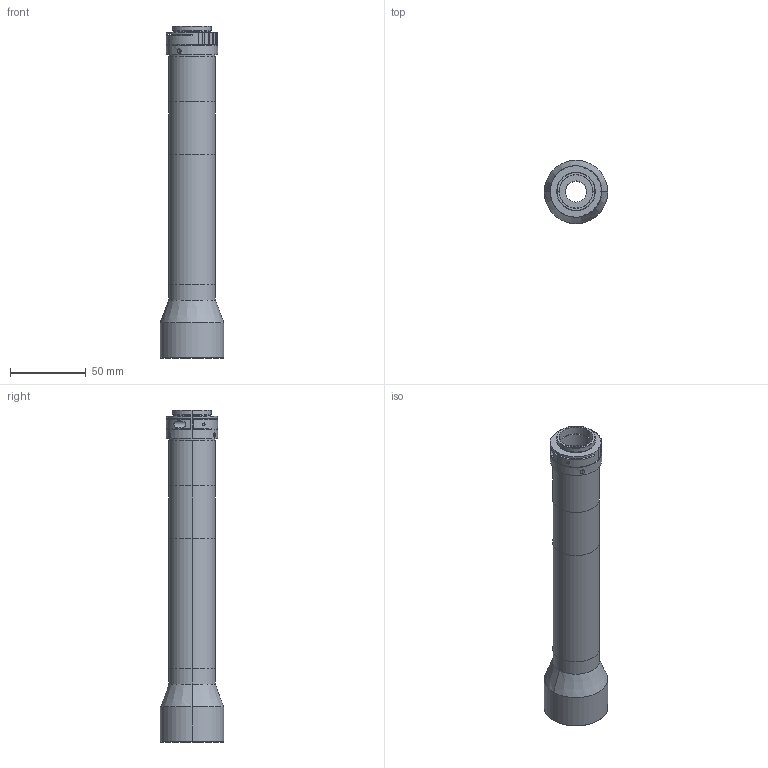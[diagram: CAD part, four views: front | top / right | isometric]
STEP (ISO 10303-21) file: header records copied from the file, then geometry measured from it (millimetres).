
FILE_DESCRIPTION (( 'STEP AP214' ), '1' );
FILE_NAME ('DH840-04X31-18.STEP', '2021-05-25T12:06:13', ( '' ), ( '' ), 'SwSTEP 2.0', 'SolidWorks 2015', '' );
FILE_SCHEMA (( 'AUTOMOTIVE_DESIGN' ));
Length unit declared in the file: millimetre
Products named in the file (5): DH840-04X31-18; DH560-06X31-18 蛌諉芛; DH560-06X31-18 C諳釱; DH560-06X31-18 C諳; DH840-04X31-18 ヶ噩芠
Assembly tree (4 placements, depth 2):
  DH840-04X31-18
    DH840-04X31-18 ヶ噩芠
    DH560-06X31-18 蛌諉芛
    DH560-06X31-18 C諳
    DH560-06X31-18 C諳釱
Bounding box: 42 x 42 x 219.4 mm (x, y, z)
Volume: 146268.5 mm3; surface area: 45559.4 mm2
Topology: 8 solids, 8 shells, 169 faces, 386 edges, 251 vertices
Faces by surface type: cylinder 110, plane 45, cone 14
Entity records: 5457 total; most frequent: CARTESIAN_POINT 1182, DIRECTION 927, ORIENTED_EDGE 768, AXIS2_PLACEMENT_3D 386, EDGE_CURVE 384, VERTEX_POINT 251, CIRCLE 210, EDGE_LOOP 209
